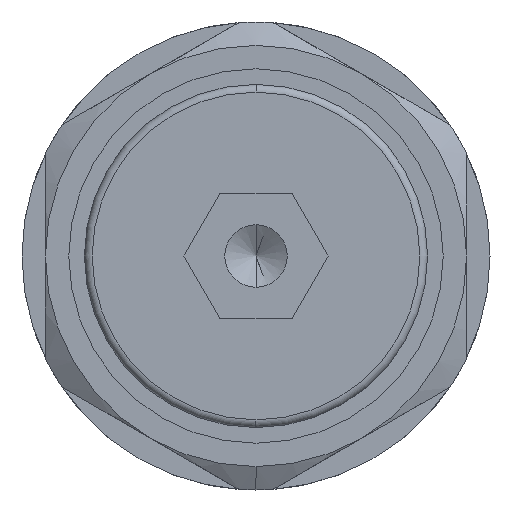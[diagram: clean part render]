
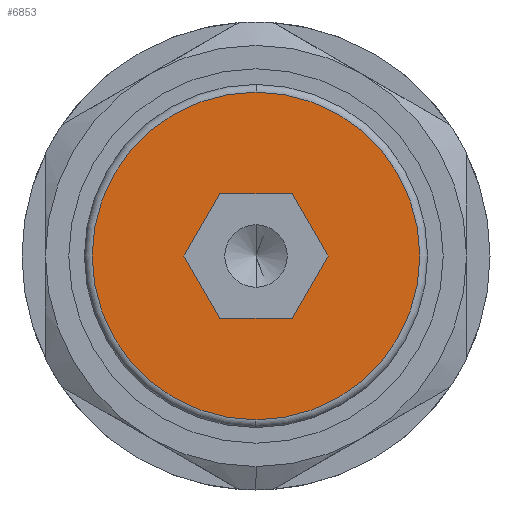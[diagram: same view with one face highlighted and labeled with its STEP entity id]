
A CAD part, left-side view. The second image highlights one B-rep face of the part: STEP entity #6853.
In plain terms, the highlighted planar face has unit normal (-1, 0, 0).
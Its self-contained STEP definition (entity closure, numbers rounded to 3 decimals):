
#96 = EDGE_LOOP ( 'NONE', ( #1397, #6457 ) ) ;
#162 = VERTEX_POINT ( 'NONE', #8479 ) ;
#206 = ORIENTED_EDGE ( 'NONE', *, *, #664, .T. ) ;
#211 = AXIS2_PLACEMENT_3D ( 'NONE', #229, #4825, #898 ) ;
#229 = CARTESIAN_POINT ( 'NONE',  ( -2., 0., 0. ) ) ;
#646 = VECTOR ( 'NONE', #7032, 1000. ) ;
#664 = EDGE_CURVE ( 'NONE', #5529, #7590, #5676, .T. ) ;
#710 = CARTESIAN_POINT ( 'NONE',  ( -2., -2.309, -4. ) ) ;
#714 = CARTESIAN_POINT ( 'NONE',  ( -2., -4.619, 0. ) ) ;
#747 = CIRCLE ( 'NONE', #4008, 10.5 ) ;
#748 = EDGE_CURVE ( 'NONE', #971, #5651, #747, .T. ) ;
#763 = CIRCLE ( 'NONE', #4878, 10.5 ) ;
#898 = DIRECTION ( 'NONE',  ( 0., 0., 1. ) ) ;
#971 = VERTEX_POINT ( 'NONE', #5326 ) ;
#1005 = CARTESIAN_POINT ( 'NONE',  ( -2., 0., -10.5 ) ) ;
#1113 = VECTOR ( 'NONE', #4652, 1000. ) ;
#1385 = EDGE_CURVE ( 'NONE', #7590, #4301, #5443, .T. ) ;
#1397 = ORIENTED_EDGE ( 'NONE', *, *, #748, .T. ) ;
#1440 = EDGE_CURVE ( 'NONE', #162, #6257, #2869, .T. ) ;
#1713 = CARTESIAN_POINT ( 'NONE',  ( -2., 0., 0. ) ) ;
#1960 = CARTESIAN_POINT ( 'NONE',  ( -2., 0., 0. ) ) ;
#1964 = VECTOR ( 'NONE', #3964, 1000. ) ;
#2026 = LINE ( 'NONE', #7266, #5297 ) ;
#2218 = CARTESIAN_POINT ( 'NONE',  ( -2., 4.619, 0. ) ) ;
#2481 = EDGE_CURVE ( 'NONE', #6834, #162, #5817, .T. ) ;
#2482 = DIRECTION ( 'NONE',  ( 0., 0., 1. ) ) ;
#2618 = DIRECTION ( 'NONE',  ( 0., 0., 1. ) ) ;
#2869 = LINE ( 'NONE', #714, #1113 ) ;
#3005 = CARTESIAN_POINT ( 'NONE',  ( -2., -2.309, 4. ) ) ;
#3093 = EDGE_CURVE ( 'NONE', #4301, #6834, #7492, .T. ) ;
#3159 = CARTESIAN_POINT ( 'NONE',  ( -2., 2.309, 4. ) ) ;
#3881 = DIRECTION ( 'NONE',  ( -1., 0., 0. ) ) ;
#3964 = DIRECTION ( 'NONE',  ( 0., -0.5, 0.866 ) ) ;
#3992 = DIRECTION ( 'NONE',  ( 0., 1., 0. ) ) ;
#4008 = AXIS2_PLACEMENT_3D ( 'NONE', #1713, #3881, #2482 ) ;
#4073 = VECTOR ( 'NONE', #5119, 1000. ) ;
#4301 = VERTEX_POINT ( 'NONE', #6152 ) ;
#4336 = ORIENTED_EDGE ( 'NONE', *, *, #2481, .T. ) ;
#4481 = DIRECTION ( 'NONE',  ( 0., -1., 0. ) ) ;
#4533 = FACE_OUTER_BOUND ( 'NONE', #96, .T. ) ;
#4652 = DIRECTION ( 'NONE',  ( 0., 0.5, -0.866 ) ) ;
#4825 = DIRECTION ( 'NONE',  ( -1., 0., 0. ) ) ;
#4878 = AXIS2_PLACEMENT_3D ( 'NONE', #1960, #6544, #2618 ) ;
#4937 = EDGE_CURVE ( 'NONE', #5651, #971, #763, .T. ) ;
#5119 = DIRECTION ( 'NONE',  ( 0., -0.5, -0.866 ) ) ;
#5297 = VECTOR ( 'NONE', #3992, 1000. ) ;
#5326 = CARTESIAN_POINT ( 'NONE',  ( -2., 0., 10.5 ) ) ;
#5331 = ORIENTED_EDGE ( 'NONE', *, *, #1385, .T. ) ;
#5443 = LINE ( 'NONE', #7899, #1964 ) ;
#5529 = VERTEX_POINT ( 'NONE', #7427 ) ;
#5651 = VERTEX_POINT ( 'NONE', #1005 ) ;
#5676 = LINE ( 'NONE', #5743, #646 ) ;
#5738 = VECTOR ( 'NONE', #4481, 1000. ) ;
#5743 = CARTESIAN_POINT ( 'NONE',  ( -2., 2.309, -4. ) ) ;
#5817 = LINE ( 'NONE', #3005, #4073 ) ;
#5989 = ORIENTED_EDGE ( 'NONE', *, *, #8475, .T. ) ;
#6117 = PLANE ( 'NONE',  #211 ) ;
#6152 = CARTESIAN_POINT ( 'NONE',  ( -2., 2.309, 4. ) ) ;
#6257 = VERTEX_POINT ( 'NONE', #710 ) ;
#6273 = FACE_BOUND ( 'NONE', #6882, .T. ) ;
#6457 = ORIENTED_EDGE ( 'NONE', *, *, #4937, .T. ) ;
#6544 = DIRECTION ( 'NONE',  ( -1., 0., 0. ) ) ;
#6651 = ORIENTED_EDGE ( 'NONE', *, *, #1440, .T. ) ;
#6705 = CARTESIAN_POINT ( 'NONE',  ( -2., -2.309, 4. ) ) ;
#6834 = VERTEX_POINT ( 'NONE', #6705 ) ;
#6853 = ADVANCED_FACE ( 'NONE', ( #4533, #6273 ), #6117, .T. ) ;
#6882 = EDGE_LOOP ( 'NONE', ( #4336, #6651, #5989, #206, #5331, #8370 ) ) ;
#7032 = DIRECTION ( 'NONE',  ( 0., 0.5, 0.866 ) ) ;
#7266 = CARTESIAN_POINT ( 'NONE',  ( -2., -2.309, -4. ) ) ;
#7427 = CARTESIAN_POINT ( 'NONE',  ( -2., 2.309, -4. ) ) ;
#7492 = LINE ( 'NONE', #3159, #5738 ) ;
#7590 = VERTEX_POINT ( 'NONE', #2218 ) ;
#7899 = CARTESIAN_POINT ( 'NONE',  ( -2., 4.619, 0. ) ) ;
#8370 = ORIENTED_EDGE ( 'NONE', *, *, #3093, .T. ) ;
#8475 = EDGE_CURVE ( 'NONE', #6257, #5529, #2026, .T. ) ;
#8479 = CARTESIAN_POINT ( 'NONE',  ( -2., -4.619, 0. ) ) ;
